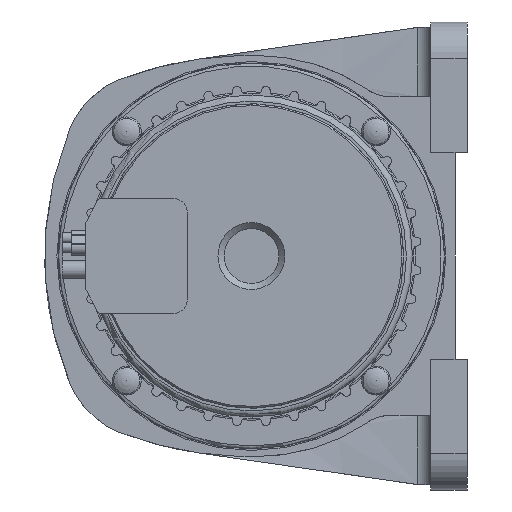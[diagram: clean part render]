
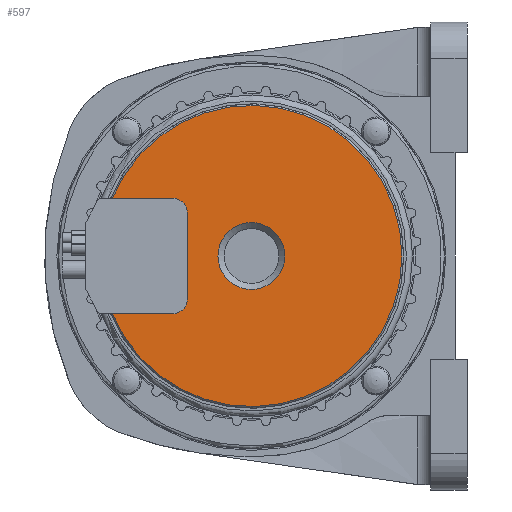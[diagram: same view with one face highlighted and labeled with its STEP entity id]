
A CAD part, left-side view. The second image highlights one B-rep face of the part: STEP entity #597.
In plain terms, the highlighted planar face has unit normal (-1, 0, 0).
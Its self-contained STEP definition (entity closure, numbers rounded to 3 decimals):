
#597 = ADVANCED_FACE( '', ( #1435, #1436 ), #1437, .F. );
#1435 = FACE_OUTER_BOUND( '', #2412, .T. );
#1436 = FACE_BOUND( '', #2413, .T. );
#1437 = PLANE( '', #2414 );
#2412 = EDGE_LOOP( '', ( #5722, #5723, #5724, #5725, #5726, #5727 ) );
#2413 = EDGE_LOOP( '', ( #5728 ) );
#2414 = AXIS2_PLACEMENT_3D( '', #5729, #5730, #5731 );
#5722 = ORIENTED_EDGE( '', *, *, #6967, .T. );
#5723 = ORIENTED_EDGE( '', *, *, #6964, .T. );
#5724 = ORIENTED_EDGE( '', *, *, #6961, .T. );
#5725 = ORIENTED_EDGE( '', *, *, #6955, .T. );
#5726 = ORIENTED_EDGE( '', *, *, #7553, .F. );
#5727 = ORIENTED_EDGE( '', *, *, #6945, .T. );
#5728 = ORIENTED_EDGE( '', *, *, #7552, .T. );
#5729 = CARTESIAN_POINT( '', ( -89., 11., 0. ) );
#5730 = DIRECTION( '', ( 1., 0., 0. ) );
#5731 = DIRECTION( '', ( 0., 0., -1. ) );
#6945 = EDGE_CURVE( '', #8584, #8585, #8586, .T. );
#6955 = EDGE_CURVE( '', #8602, #8603, #8604, .T. );
#6961 = EDGE_CURVE( '', #8612, #8602, #8613, .T. );
#6964 = EDGE_CURVE( '', #8617, #8612, #8618, .T. );
#6967 = EDGE_CURVE( '', #8585, #8617, #8622, .T. );
#7552 = EDGE_CURVE( '', #9591, #9591, #9592, .T. );
#7553 = EDGE_CURVE( '', #8584, #8603, #9593, .T. );
#8584 = VERTEX_POINT( '', #11748 );
#8585 = VERTEX_POINT( '', #11749 );
#8586 = LINE( '', #11750, #11751 );
#8602 = VERTEX_POINT( '', #11786 );
#8603 = VERTEX_POINT( '', #11787 );
#8604 = LINE( '', #11788, #11789 );
#8612 = VERTEX_POINT( '', #11804 );
#8613 = CIRCLE( '', #11805, 5. );
#8617 = VERTEX_POINT( '', #11810 );
#8618 = LINE( '', #11811, #11812 );
#8622 = CIRCLE( '', #11818, 5. );
#9591 = VERTEX_POINT( '', #13363 );
#9592 = CIRCLE( '', #13364, 11. );
#9593 = CIRCLE( '', #13365, 49.55 );
#11748 = CARTESIAN_POINT( '', ( -89., 45.762, 19. ) );
#11749 = CARTESIAN_POINT( '', ( -89., 26., 19. ) );
#11750 = CARTESIAN_POINT( '', ( -89., 11., 19. ) );
#11751 = VECTOR( '', #14399, 1000. );
#11786 = CARTESIAN_POINT( '', ( -89., 26., -19. ) );
#11787 = CARTESIAN_POINT( '', ( -89., 45.762, -19. ) );
#11788 = CARTESIAN_POINT( '', ( -89., 11., -19. ) );
#11789 = VECTOR( '', #14410, 1000. );
#11804 = CARTESIAN_POINT( '', ( -89., 21., -14. ) );
#11805 = AXIS2_PLACEMENT_3D( '', #14415, #14416, #14417 );
#11810 = CARTESIAN_POINT( '', ( -89., 21., 14. ) );
#11811 = CARTESIAN_POINT( '', ( -89., 21., 0. ) );
#11812 = VECTOR( '', #14422, 1000. );
#11818 = AXIS2_PLACEMENT_3D( '', #14425, #14426, #14427 );
#13363 = CARTESIAN_POINT( '', ( -89., 0., -11. ) );
#13364 = AXIS2_PLACEMENT_3D( '', #15491, #15492, #15493 );
#13365 = AXIS2_PLACEMENT_3D( '', #15494, #15495, #15496 );
#14399 = DIRECTION( '', ( 0., -1., 0. ) );
#14410 = DIRECTION( '', ( 0., 1., 0. ) );
#14415 = CARTESIAN_POINT( '', ( -89., 26., -14. ) );
#14416 = DIRECTION( '', ( 1., 0., 0. ) );
#14417 = DIRECTION( '', ( 0., 0., -1. ) );
#14422 = DIRECTION( '', ( 0., 0., -1. ) );
#14425 = CARTESIAN_POINT( '', ( -89., 26., 14. ) );
#14426 = DIRECTION( '', ( 1., 0., 0. ) );
#14427 = DIRECTION( '', ( 0., 0., -1. ) );
#15491 = CARTESIAN_POINT( '', ( -89., 0., 0. ) );
#15492 = DIRECTION( '', ( 1., 0., 0. ) );
#15493 = DIRECTION( '', ( 0., 0., -1. ) );
#15494 = CARTESIAN_POINT( '', ( -89., 0., 0. ) );
#15495 = DIRECTION( '', ( 1., 0., 0. ) );
#15496 = DIRECTION( '', ( 0., 0., -1. ) );
